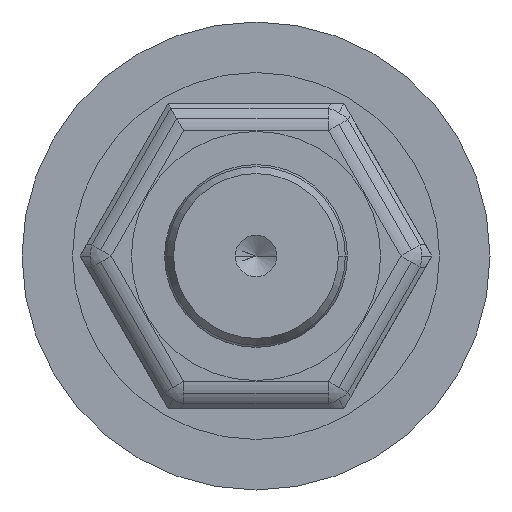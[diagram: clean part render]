
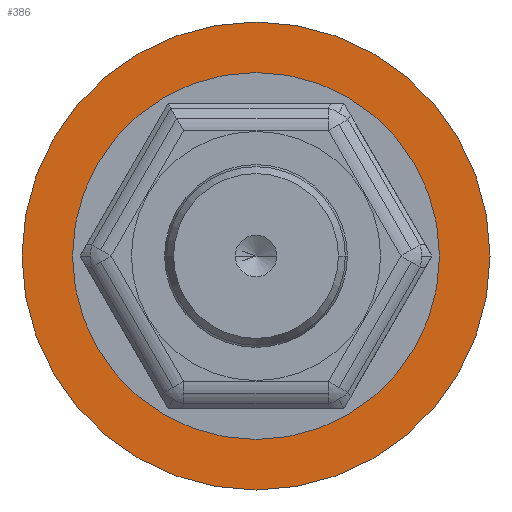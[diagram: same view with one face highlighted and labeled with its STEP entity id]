
A CAD part, left-side view. The second image highlights one B-rep face of the part: STEP entity #386.
In plain terms, the highlighted planar face has unit normal (-1, 0, 0).
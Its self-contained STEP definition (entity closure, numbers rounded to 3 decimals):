
#386=ADVANCED_FACE('',(#782,#783),#784,.T.);
#782=FACE_OUTER_BOUND('',#1170,.T.);
#783=FACE_BOUND('',#1171,.T.);
#784=PLANE('',#1172);
#1170=EDGE_LOOP('',(#2246,#2247));
#1171=EDGE_LOOP('',(#2248,#2249));
#1172=AXIS2_PLACEMENT_3D('',#2250,#2251,#2252);
#2246=ORIENTED_EDGE('',*,*,#2314,.F.);
#2247=ORIENTED_EDGE('',*,*,#2458,.F.);
#2248=ORIENTED_EDGE('',*,*,#2258,.T.);
#2249=ORIENTED_EDGE('',*,*,#2670,.T.);
#2250=CARTESIAN_POINT('',(37.9,15.075,0.0));
#2251=DIRECTION('',(-1.0,0.0,0.0));
#2252=DIRECTION('',(0.0,0.0,1.0));
#2258=EDGE_CURVE('',#2675,#2679,#2681,.T.);
#2314=EDGE_CURVE('',#2771,#2774,#2775,.T.);
#2458=EDGE_CURVE('',#2774,#2771,#2979,.T.);
#2670=EDGE_CURVE('',#2679,#2675,#3276,.T.);
#2675=VERTEX_POINT('',#3281);
#2679=VERTEX_POINT('',#3286);
#2681=CIRCLE('',#3289,13.25);
#2771=VERTEX_POINT('',#3401);
#2774=VERTEX_POINT('',#3405);
#2775=CIRCLE('',#3406,16.9);
#2979=CIRCLE('',#3660,16.9);
#3276=CIRCLE('',#4064,13.25);
#3281=CARTESIAN_POINT('',(37.9,13.25,0.0));
#3286=CARTESIAN_POINT('',(37.9,-13.25,0.));
#3289=AXIS2_PLACEMENT_3D('',#4072,#4073,#4074);
#3401=CARTESIAN_POINT('',(37.9,16.9,0.0));
#3405=CARTESIAN_POINT('',(37.9,-16.9,0.));
#3406=AXIS2_PLACEMENT_3D('',#4158,#4159,#4160);
#3660=AXIS2_PLACEMENT_3D('',#4367,#4368,#4369);
#4064=AXIS2_PLACEMENT_3D('',#4591,#4592,#4593);
#4072=CARTESIAN_POINT('',(37.9,0.0,0.0));
#4073=DIRECTION('',(1.0,0.0,0.0));
#4074=DIRECTION('',(0.0,1.0,0.0));
#4158=CARTESIAN_POINT('',(37.9,0.0,0.0));
#4159=DIRECTION('',(1.0,0.0,0.0));
#4160=DIRECTION('',(0.0,1.0,0.0));
#4367=CARTESIAN_POINT('',(37.9,0.0,0.0));
#4368=DIRECTION('',(1.0,0.0,0.0));
#4369=DIRECTION('',(0.0,1.0,0.0));
#4591=CARTESIAN_POINT('',(37.9,0.0,0.0));
#4592=DIRECTION('',(1.0,0.0,0.0));
#4593=DIRECTION('',(0.0,1.0,0.0));
